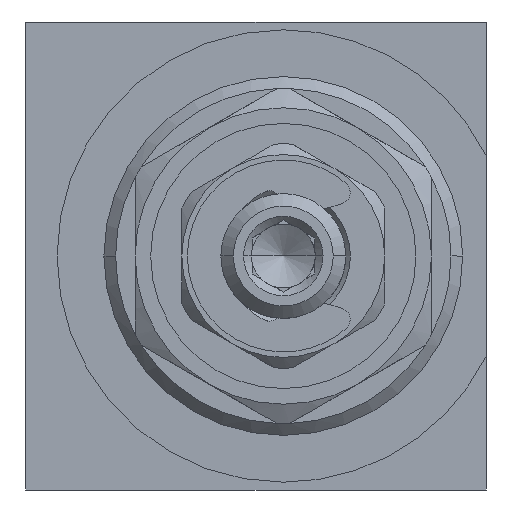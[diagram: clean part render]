
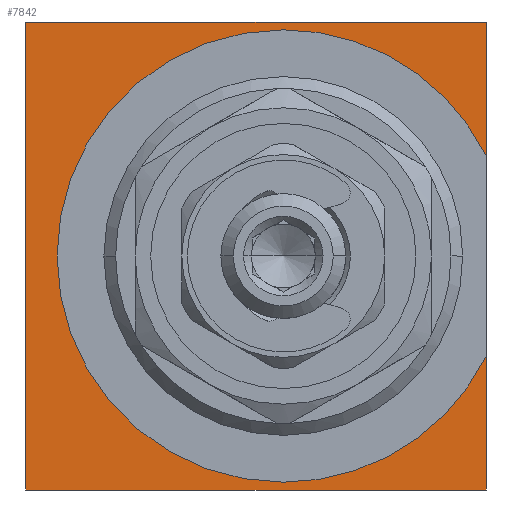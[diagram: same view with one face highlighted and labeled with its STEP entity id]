
A CAD part, left-side view. The second image highlights one B-rep face of the part: STEP entity #7842.
In plain terms, the highlighted planar face has unit normal (-1, 0, 0).
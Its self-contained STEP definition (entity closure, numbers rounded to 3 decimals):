
#80 = LINE ( 'NONE', #11028, #252 ) ;
#252 = VECTOR ( 'NONE', #5235, 1000. ) ;
#310 = DIRECTION ( 'NONE',  ( 0., -1., 0. ) ) ;
#896 = DIRECTION ( 'NONE',  ( 0., 0., 1. ) ) ;
#911 = DIRECTION ( 'NONE',  ( 1., 0., 0. ) ) ;
#944 = CARTESIAN_POINT ( 'NONE',  ( 0., -1.75, 0. ) ) ;
#1557 = CARTESIAN_POINT ( 'NONE',  ( 0., -14.75, -6.423 ) ) ;
#1570 = CARTESIAN_POINT ( 'NONE',  ( 0., 14.75, 15. ) ) ;
#1711 = EDGE_CURVE ( 'NONE', #3399, #4362, #11927, .T. ) ;
#2053 = CARTESIAN_POINT ( 'NONE',  ( 0., -14.75, 6.423 ) ) ;
#2341 = CARTESIAN_POINT ( 'NONE',  ( 0., 14.75, 15. ) ) ;
#2633 = ORIENTED_EDGE ( 'NONE', *, *, #3293, .F. ) ;
#2641 = ORIENTED_EDGE ( 'NONE', *, *, #4882, .F. ) ;
#2645 = ORIENTED_EDGE ( 'NONE', *, *, #4922, .F. ) ;
#2791 = CIRCLE ( 'NONE', #12627, 14.5 ) ;
#3036 = EDGE_LOOP ( 'NONE', ( #13350, #13142, #11586, #11585, #11544, #2633, #2641, #2645 ) ) ;
#3103 = VERTEX_POINT ( 'NONE', #10467 ) ;
#3181 = EDGE_CURVE ( 'NONE', #7891, #4362, #6102, .T. ) ;
#3224 = CARTESIAN_POINT ( 'NONE',  ( 0., -1.75, 0. ) ) ;
#3229 = DIRECTION ( 'NONE',  ( 1., 0., 0. ) ) ;
#3280 = VERTEX_POINT ( 'NONE', #8526 ) ;
#3293 = EDGE_CURVE ( 'NONE', #4248, #3399, #10045, .T. ) ;
#3346 = DIRECTION ( 'NONE',  ( 0., 0., 1. ) ) ;
#3399 = VERTEX_POINT ( 'NONE', #12535 ) ;
#3489 = DIRECTION ( 'NONE',  ( 0., 0., -1. ) ) ;
#4208 = CIRCLE ( 'NONE', #11825, 14.5 ) ;
#4242 = FACE_OUTER_BOUND ( 'NONE', #3036, .T. ) ;
#4248 = VERTEX_POINT ( 'NONE', #1570 ) ;
#4362 = VERTEX_POINT ( 'NONE', #2053 ) ;
#4642 = DIRECTION ( 'NONE',  ( 0., 0., 1. ) ) ;
#4882 = EDGE_CURVE ( 'NONE', #3103, #4248, #11201, .T. ) ;
#4922 = EDGE_CURVE ( 'NONE', #3280, #3103, #80, .T. ) ;
#5235 = DIRECTION ( 'NONE',  ( 0., 1., 0. ) ) ;
#5429 = EDGE_CURVE ( 'NONE', #12795, #7891, #2791, .T. ) ;
#5786 = VERTEX_POINT ( 'NONE', #1557 ) ;
#6102 = CIRCLE ( 'NONE', #9634, 14.5 ) ;
#7815 = EDGE_CURVE ( 'NONE', #5786, #12795, #4208, .T. ) ;
#7842 = ADVANCED_FACE ( 'NONE', ( #4242 ), #8566, .T. ) ;
#7891 = VERTEX_POINT ( 'NONE', #8209 ) ;
#8209 = CARTESIAN_POINT ( 'NONE',  ( 0., -1.75, 14.5 ) ) ;
#8375 = DIRECTION ( 'NONE',  ( 0., 0., 1. ) ) ;
#8400 = DIRECTION ( 'NONE',  ( -1., 0., 0. ) ) ;
#8411 = CARTESIAN_POINT ( 'NONE',  ( 0., 14.75, -15. ) ) ;
#8526 = CARTESIAN_POINT ( 'NONE',  ( 0., -14.75, -15. ) ) ;
#8566 = PLANE ( 'NONE',  #11538 ) ;
#8710 = CARTESIAN_POINT ( 'NONE',  ( 0., -14.75, 15. ) ) ;
#8790 = DIRECTION ( 'NONE',  ( 0., 0., 1. ) ) ;
#8825 = DIRECTION ( 'NONE',  ( 1., 0., 0. ) ) ;
#8854 = CARTESIAN_POINT ( 'NONE',  ( 0., -1.75, 0. ) ) ;
#9190 = VECTOR ( 'NONE', #3489, 1000. ) ;
#9634 = AXIS2_PLACEMENT_3D ( 'NONE', #3224, #3229, #3346 ) ;
#10045 = LINE ( 'NONE', #8710, #11257 ) ;
#10323 = LINE ( 'NONE', #11012, #9190 ) ;
#10467 = CARTESIAN_POINT ( 'NONE',  ( 0., 14.75, -15. ) ) ;
#10809 = CARTESIAN_POINT ( 'NONE',  ( 0., -1.75, -14.5 ) ) ;
#11012 = CARTESIAN_POINT ( 'NONE',  ( 0., -14.75, 15. ) ) ;
#11028 = CARTESIAN_POINT ( 'NONE',  ( 0., -14.75, -15. ) ) ;
#11201 = LINE ( 'NONE', #2341, #12564 ) ;
#11257 = VECTOR ( 'NONE', #310, 1000. ) ;
#11538 = AXIS2_PLACEMENT_3D ( 'NONE', #8411, #8400, #8375 ) ;
#11544 = ORIENTED_EDGE ( 'NONE', *, *, #1711, .F. ) ;
#11585 = ORIENTED_EDGE ( 'NONE', *, *, #3181, .T. ) ;
#11586 = ORIENTED_EDGE ( 'NONE', *, *, #5429, .T. ) ;
#11758 = EDGE_CURVE ( 'NONE', #5786, #3280, #10323, .T. ) ;
#11825 = AXIS2_PLACEMENT_3D ( 'NONE', #8854, #8825, #8790 ) ;
#11921 = VECTOR ( 'NONE', #13074, 1000. ) ;
#11927 = LINE ( 'NONE', #13450, #11921 ) ;
#12535 = CARTESIAN_POINT ( 'NONE',  ( 0., -14.75, 15. ) ) ;
#12564 = VECTOR ( 'NONE', #4642, 1000. ) ;
#12627 = AXIS2_PLACEMENT_3D ( 'NONE', #944, #911, #896 ) ;
#12795 = VERTEX_POINT ( 'NONE', #10809 ) ;
#13074 = DIRECTION ( 'NONE',  ( 0., 0., -1. ) ) ;
#13142 = ORIENTED_EDGE ( 'NONE', *, *, #7815, .T. ) ;
#13350 = ORIENTED_EDGE ( 'NONE', *, *, #11758, .F. ) ;
#13450 = CARTESIAN_POINT ( 'NONE',  ( 0., -14.75, 15. ) ) ;
